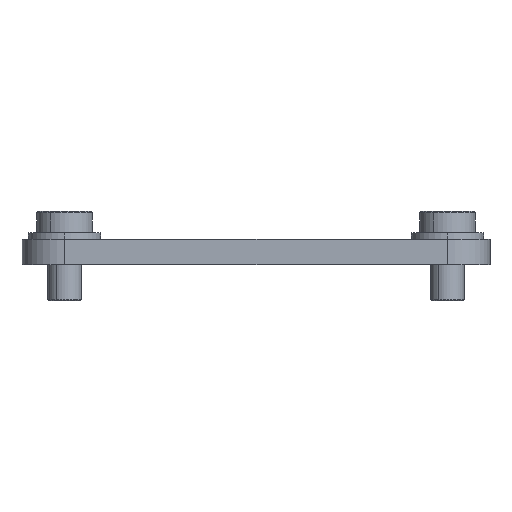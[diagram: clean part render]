
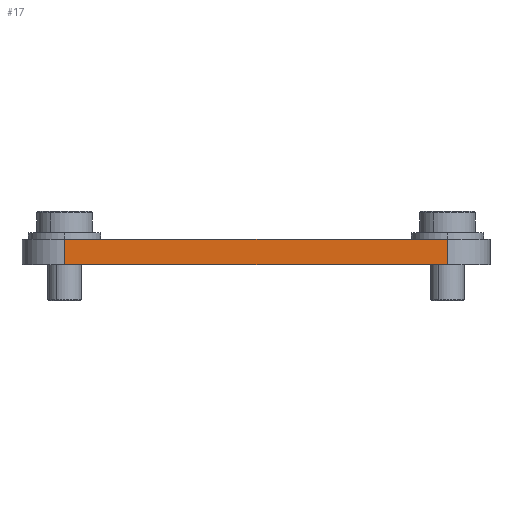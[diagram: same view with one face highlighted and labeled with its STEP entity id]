
A CAD part, left-side view. The second image highlights one B-rep face of the part: STEP entity #17.
In plain terms, the highlighted planar face has unit normal (-1, 0, 0).
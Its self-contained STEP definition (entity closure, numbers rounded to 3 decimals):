
#17 = ADVANCED_FACE ( 'NONE', ( #713 ), #90, .F. ) ;
#79 = CARTESIAN_POINT ( 'NONE',  ( -157.5, -45., 3. ) ) ;
#88 = DIRECTION ( 'NONE',  ( 1., 0., 0. ) ) ;
#89 = DIRECTION ( 'NONE',  ( 0., 0., -1. ) ) ;
#90 = PLANE ( 'NONE',  #1405 ) ;
#92 = CARTESIAN_POINT ( 'NONE',  ( -157.5, 55., 3. ) ) ;
#101 = CARTESIAN_POINT ( 'NONE',  ( -157.5, -45., -3. ) ) ;
#180 = CARTESIAN_POINT ( 'NONE',  ( -157.5, 45., 3. ) ) ;
#231 = CARTESIAN_POINT ( 'NONE',  ( -157.5, 45., 3. ) ) ;
#240 = CARTESIAN_POINT ( 'NONE',  ( -157.5, 45., -3. ) ) ;
#381 = DIRECTION ( 'NONE',  ( 0., 0., -1. ) ) ;
#499 = ORIENTED_EDGE ( 'NONE', *, *, #1473, .T. ) ;
#534 = ORIENTED_EDGE ( 'NONE', *, *, #1337, .T. ) ;
#545 = VERTEX_POINT ( 'NONE', #231 ) ;
#547 = VERTEX_POINT ( 'NONE', #101 ) ;
#549 = VERTEX_POINT ( 'NONE', #240 ) ;
#569 = VERTEX_POINT ( 'NONE', #79 ) ;
#647 = ORIENTED_EDGE ( 'NONE', *, *, #1471, .F. ) ;
#655 = ORIENTED_EDGE ( 'NONE', *, *, #1514, .T. ) ;
#675 = VECTOR ( 'NONE', #381, 1000. ) ;
#713 = FACE_OUTER_BOUND ( 'NONE', #940, .T. ) ;
#841 = LINE ( 'NONE', #180, #675 ) ;
#940 = EDGE_LOOP ( 'NONE', ( #655, #499, #647, #534 ) ) ;
#1139 = VECTOR ( 'NONE', #1770, 1000. ) ;
#1141 = LINE ( 'NONE', #1771, #1139 ) ;
#1216 = VECTOR ( 'NONE', #1556, 1000. ) ;
#1219 = LINE ( 'NONE', #1557, #1216 ) ;
#1220 = VECTOR ( 'NONE', #1560, 1000. ) ;
#1225 = LINE ( 'NONE', #1561, #1220 ) ;
#1337 = EDGE_CURVE ( 'NONE', #545, #549, #841, .T. ) ;
#1405 = AXIS2_PLACEMENT_3D ( 'NONE', #92, #88, #89 ) ;
#1471 = EDGE_CURVE ( 'NONE', #545, #569, #1225, .T. ) ;
#1473 = EDGE_CURVE ( 'NONE', #547, #569, #1219, .T. ) ;
#1514 = EDGE_CURVE ( 'NONE', #549, #547, #1141, .T. ) ;
#1556 = DIRECTION ( 'NONE',  ( 0., 0., 1. ) ) ;
#1557 = CARTESIAN_POINT ( 'NONE',  ( -157.5, -45., 3. ) ) ;
#1560 = DIRECTION ( 'NONE',  ( 0., -1., 0. ) ) ;
#1561 = CARTESIAN_POINT ( 'NONE',  ( -157.5, 55., 3. ) ) ;
#1770 = DIRECTION ( 'NONE',  ( 0., -1., 0. ) ) ;
#1771 = CARTESIAN_POINT ( 'NONE',  ( -157.5, 55., -3. ) ) ;
